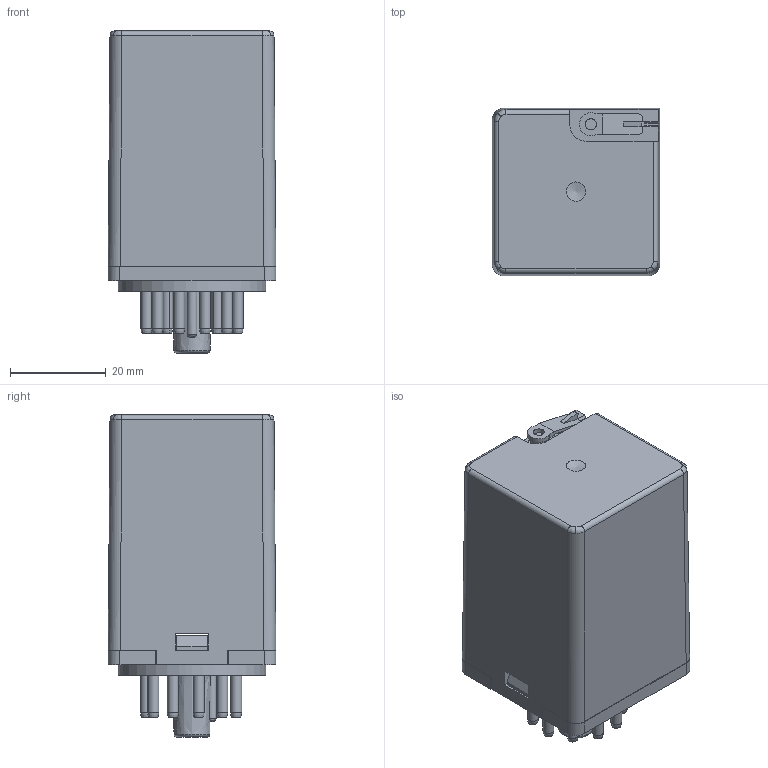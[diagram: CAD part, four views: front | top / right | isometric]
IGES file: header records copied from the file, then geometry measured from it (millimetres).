
Global section: file name: G11; native system: Autodesk Inventor 2020; preprocessor: unknown; organization: Mors Smitt; date: 20210603.134521; units: millimetre
Bounding box: 35.05 x 35.05 x 67.2 mm (x, y, z)
Volume: 17075.2 mm3; surface area: 23761.9 mm2
Topology: 14 solids, 14 shells, 540 faces, 1493 edges, 1000 vertices
Faces by surface type: bspline 540
